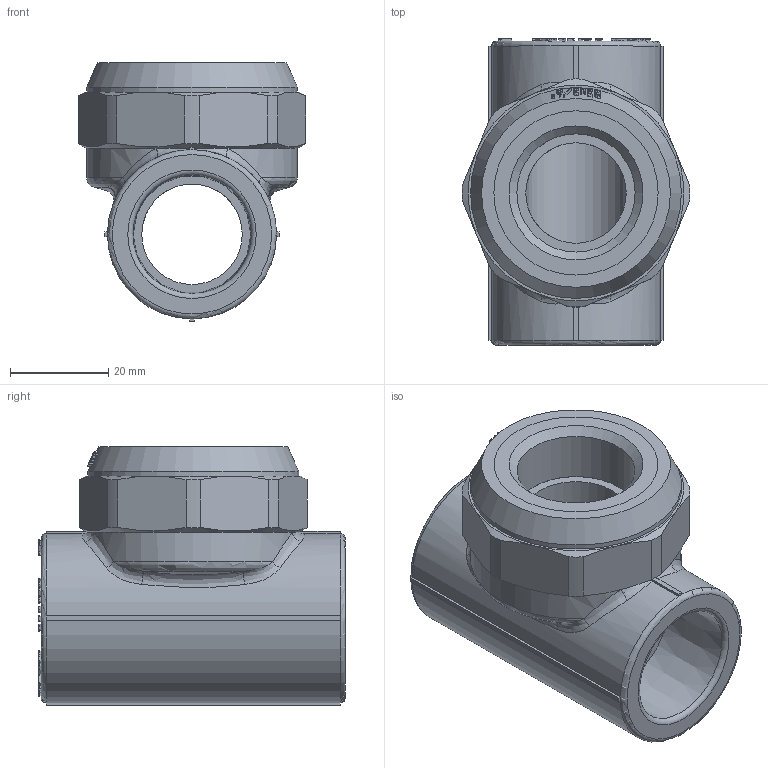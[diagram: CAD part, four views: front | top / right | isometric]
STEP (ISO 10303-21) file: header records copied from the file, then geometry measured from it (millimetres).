
FILE_DESCRIPTION(('STEP AP203'), '1');
FILE_NAME('ÂÐ.752241.037 - VTp.732.0.02505', '', ('UNSPECIFIED'), ('UNSPECIFIED'), 'C3D Converter', 'C3D Toolkit', '');
FILE_SCHEMA(('CONFIG_CONTROL_DESIGN'));
Length unit declared in the file: millimetre
Products named in the file (4): ВР.752241.037; ВР.302639.015.000; ВР.713661.002
Assembly tree (3 placements, depth 3):
  ВР.752241.037
    ВР.302639.015.000
      ВР.713661.002
      (unnamed)
Bounding box: 46.49 x 62.5 x 52.75 mm (x, y, z)
Volume: 55097.7 mm3; surface area: 25583.1 mm2
Topology: 3 solids, 3 shells, 909 faces, 2509 edges, 1659 vertices
Faces by surface type: extrusion 443, plane 375, cylinder 39, cone 27, bspline 14, torus 11
Full cylindrical faces by diameter (mm): 20.5 x2, 24.118 x2, 27 x2, 29.5 x8, 33.5 x10, 43 x1
Entity records: 33426 total; most frequent: CARTESIAN_POINT 12192, ORIENTED_EDGE 4908, DIRECTION 2960, EDGE_CURVE 2454, VERTEX_POINT 1648, VECTOR 1640, B_SPLINE_CURVE_WITH_KNOTS 1496, LINE 1197
